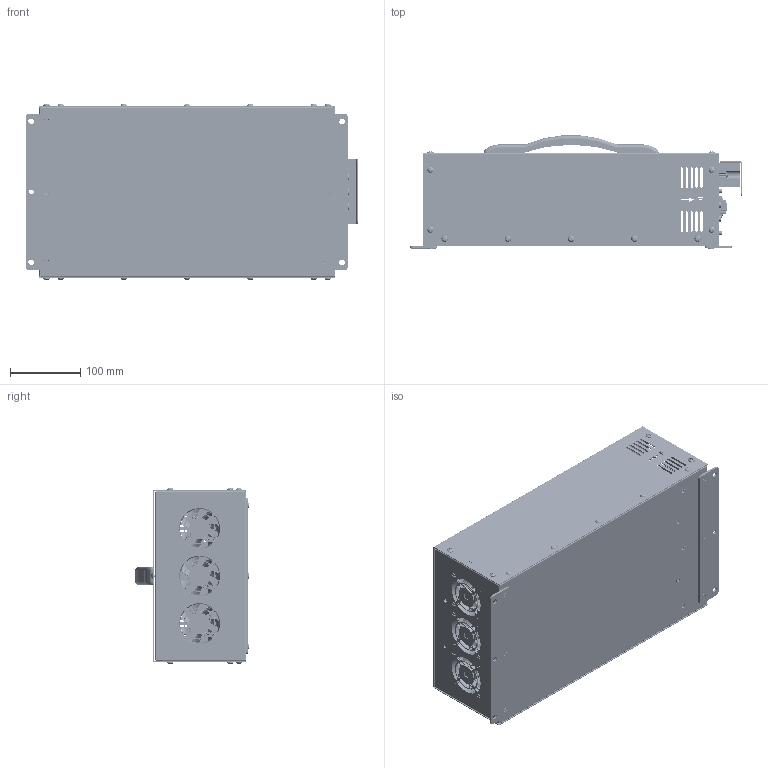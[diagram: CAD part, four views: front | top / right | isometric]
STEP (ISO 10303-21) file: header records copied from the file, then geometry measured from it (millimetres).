
FILE_DESCRIPTION(/* description */ (''),/* implementation_level */ '2;1');
FILE_NAME(/* name */ '',/* time_stamp */ '2026-06-18T14:31:25+09:00',/* author */ ('Administrator'),/* organization */ (''),/* preprocessor_version */ 'ST-DEVELOPER v20.1',/* originating_system */ 'Autodesk Inventor 2026',/* authorisation */ '');
FILE_SCHEMA (('AUTOMOTIVE_DESIGN { 1 0 10303 214 3 1 1 }'));
Products named in the file (1): VX3COM_OLED_21pitch단자대_HANDLE1_2026.06.18_단순화_
1
Bounding box: 471.11 x 160.63 x 250.84 mm (x, y, z)
Volume: 820757.9 mm3; surface area: 956905.3 mm2
Topology: 15 solids, 15 shells, 8900 faces, 23767 edges, 15434 vertices
Faces by surface type: plane 5143, cylinder 1953, bspline 1529, torus 164, cone 76, sphere 35
Full cylindrical faces by diameter (mm): 0.013 x9, 0.6 x3, 0.609 x1, 0.61 x27, 0.635 x9, 0.7 x18, 0.75 x18, 0.85 x3, 0.9 x24, 1 x5, 1.397 x9, 1.5 x4, 2.1 x4, 2.286 x9, 2.5 x4, 2.8 x12, 2.957 x12, 3 x6, 3.048 x4, 3.4 x5, 3.6 x25, 3.783 x2, 3.8 x20, 3.9 x2, 4 x17, 4.3 x12, 4.5 x27, 5 x27, 5.3 x10, 5.4 x6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
Entity records: 318230 total; most frequent: CARTESIAN_POINT 92268, ORIENTED_EDGE 47488, DIRECTION 40692, EDGE_CURVE 23744, VERTEX_POINT 15434, LINE 15294, VECTOR 15294, AXIS2_PLACEMENT_3D 12699
